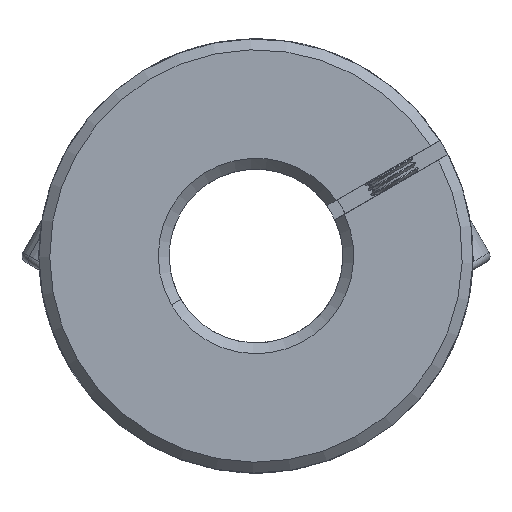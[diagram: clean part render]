
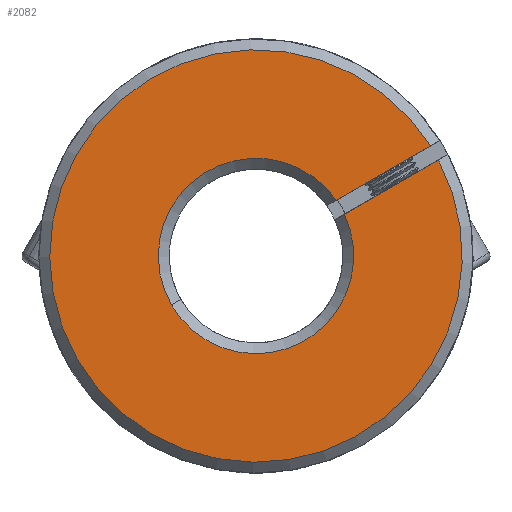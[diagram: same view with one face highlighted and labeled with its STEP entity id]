
A CAD part, front view. The second image highlights one B-rep face of the part: STEP entity #2082.
In plain terms, the highlighted planar face has unit normal (0, -1, 0).
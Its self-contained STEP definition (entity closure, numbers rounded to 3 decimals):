
#655 = CARTESIAN_POINT ( 'NONE',  ( 15.367, -31.239, 48.848 ) ) ;
#1069 = PLANE ( 'NONE',  #3142 ) ;
#1226 = EDGE_CURVE ( 'NONE', #13748, #4973, #13366, .T. ) ;
#1844 = DIRECTION ( 'NONE',  ( -0.866, 0., -0.5 ) ) ;
#2082 = ADVANCED_FACE ( 'NONE', ( #10105 ), #1069, .F. ) ;
#2190 = CARTESIAN_POINT ( 'NONE',  ( 5.825, -31.239, 43.335 ) ) ;
#2330 = CARTESIAN_POINT ( 'NONE',  ( 5.943, -31.239, 45.136 ) ) ;
#2653 = CARTESIAN_POINT ( 'NONE',  ( 6.694, -31.239, 43.837 ) ) ;
#3031 = VERTEX_POINT ( 'NONE', #2330 ) ;
#3142 = AXIS2_PLACEMENT_3D ( 'NONE', #9682, #9864, #8746 ) ;
#3307 = DIRECTION ( 'NONE',  ( 0., -1., 0. ) ) ;
#3512 = VECTOR ( 'NONE', #6465, 1000. ) ;
#4054 = EDGE_LOOP ( 'NONE', ( #10112, #6653, #13709, #9769, #4449 ) ) ;
#4055 = AXIS2_PLACEMENT_3D ( 'NONE', #7122, #12698, #7168 ) ;
#4089 = CARTESIAN_POINT ( 'NONE',  ( 5.074, -31.239, 44.634 ) ) ;
#4449 = ORIENTED_EDGE ( 'NONE', *, *, #1226, .T. ) ;
#4557 = EDGE_CURVE ( 'NONE', #13748, #3031, #11580, .T. ) ;
#4973 = VERTEX_POINT ( 'NONE', #655 ) ;
#5405 = CARTESIAN_POINT ( 'NONE',  ( -1.447, -31.239, 40. ) ) ;
#6387 = EDGE_CURVE ( 'NONE', #7193, #3031, #13089, .T. ) ;
#6465 = DIRECTION ( 'NONE',  ( 0.866, 0., 0.5 ) ) ;
#6653 = ORIENTED_EDGE ( 'NONE', *, *, #13009, .T. ) ;
#7122 = CARTESIAN_POINT ( 'NONE',  ( -1.447, -31.239, 40. ) ) ;
#7168 = DIRECTION ( 'NONE',  ( 0.5, 0., -0.866 ) ) ;
#7193 = VERTEX_POINT ( 'NONE', #13448 ) ;
#7301 = AXIS2_PLACEMENT_3D ( 'NONE', #13983, #11843, #11895 ) ;
#7598 = VERTEX_POINT ( 'NONE', #2653 ) ;
#8387 = LINE ( 'NONE', #2190, #3512 ) ;
#8746 = DIRECTION ( 'NONE',  ( 0.5, 0., -0.866 ) ) ;
#9682 = CARTESIAN_POINT ( 'NONE',  ( 52.98, -31.239, 45.743 ) ) ;
#9769 = ORIENTED_EDGE ( 'NONE', *, *, #4557, .F. ) ;
#9864 = DIRECTION ( 'NONE',  ( 0., 1., 0. ) ) ;
#10105 = FACE_OUTER_BOUND ( 'NONE', #4054, .T. ) ;
#10112 = ORIENTED_EDGE ( 'NONE', *, *, #12208, .F. ) ;
#10719 = CIRCLE ( 'NONE', #4055, 9. ) ;
#11085 = VECTOR ( 'NONE', #1844, 1000. ) ;
#11580 = LINE ( 'NONE', #4089, #11085 ) ;
#11843 = DIRECTION ( 'NONE',  ( 0., 1., 0. ) ) ;
#11895 = DIRECTION ( 'NONE',  ( 0.5, 0., -0.866 ) ) ;
#12208 = EDGE_CURVE ( 'NONE', #7598, #4973, #8387, .T. ) ;
#12698 = DIRECTION ( 'NONE',  ( 0., 1., 0. ) ) ;
#12932 = DIRECTION ( 'NONE',  ( 0.5, 0., -0.866 ) ) ;
#13009 = EDGE_CURVE ( 'NONE', #7598, #7193, #10719, .T. ) ;
#13089 = CIRCLE ( 'NONE', #7301, 9. ) ;
#13095 = CARTESIAN_POINT ( 'NONE',  ( 14.616, -31.239, 50.147 ) ) ;
#13366 = CIRCLE ( 'NONE', #13885, 19. ) ;
#13448 = CARTESIAN_POINT ( 'NONE',  ( -9.24, -31.239, 35.498 ) ) ;
#13709 = ORIENTED_EDGE ( 'NONE', *, *, #6387, .T. ) ;
#13748 = VERTEX_POINT ( 'NONE', #13095 ) ;
#13885 = AXIS2_PLACEMENT_3D ( 'NONE', #5405, #3307, #12932 ) ;
#13983 = CARTESIAN_POINT ( 'NONE',  ( -1.447, -31.239, 40. ) ) ;
